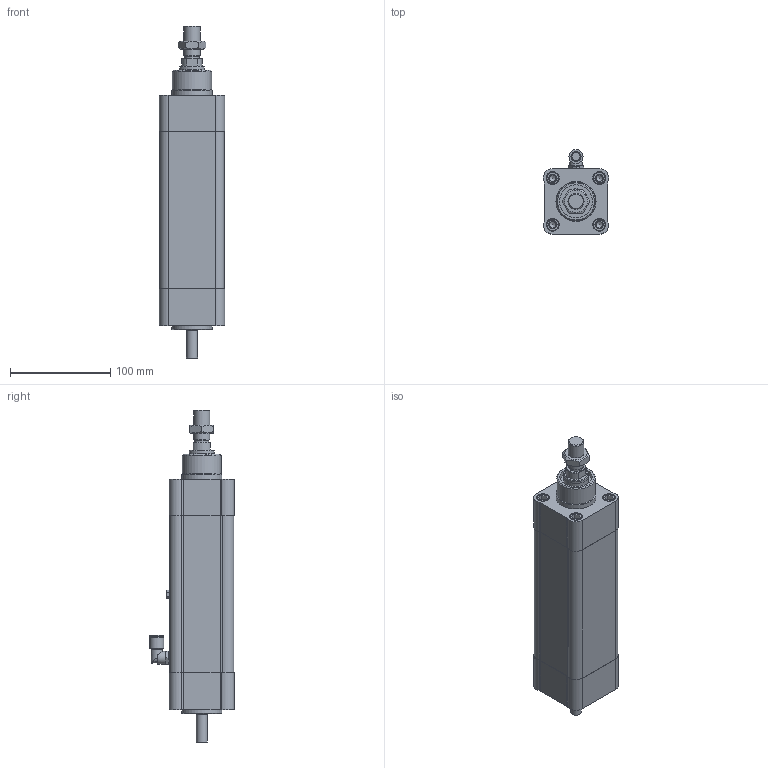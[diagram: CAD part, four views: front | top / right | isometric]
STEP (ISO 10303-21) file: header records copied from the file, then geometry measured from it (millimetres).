
FILE_DESCRIPTION(/* description */ ('STEP AP214'),/* implementation_level */ '2;1');
FILE_NAME(/* name */ 'PNCE 50 BS 2005 50 IP65CR(0)',/* time_stamp */ '2026-06-01T09:19:26+02:00',/* author */ ('License CC BY-ND 4.0'),/* organization */ ('CADENAS'),/* preprocessor_version */ 'ST-DEVELOPER v20',/* originating_system */ 'PARTsolutions',/* authorisation */ ' ');
FILE_SCHEMA (('AUTOMOTIVE_DESIGN {1 0 10303 214 3 1 1}'));
Length unit declared in the file: millimetre
Products named in the file (6): PNCE 50 BS 2005 50 IP65CR(0); PNCE 50_drive cap; PNCE 50 50 IP65CR(0)_cylinder profil; PNCE 50_front cap; PNCE 50 50 IP65CR 0_piston rod; PNCE 50_nut
Assembly tree (5 placements, depth 2):
  PNCE 50 BS 2005 50 IP65CR(0)
    PNCE 50_drive cap
    PNCE 50 50 IP65CR(0)_cylinder profil
    PNCE 50_front cap
    PNCE 50 50 IP65CR 0_piston rod
    PNCE 50_nut
Bounding box: 64.97 x 84.5 x 331 mm (x, y, z)
Volume: 859073.6 mm3; surface area: 184761.5 mm2
Topology: 5 solids, 5 shells, 287 faces, 654 edges, 429 vertices
Faces by surface type: plane 144, cylinder 103, cone 35, torus 5
Full cylindrical faces by diameter (mm): 6.647 x8, 6.7 x4, 8 x9, 8.7 x4, 10 x1, 10.6 x1, 11 x2, 12 x8, 12.5 x2, 13 x8, 14 x2, 14.2 x1, 14.376 x1, 16 x1, 24.8 x1, 25 x2, 31 x1, 33 x1, 39 x1, 40 x2, 49 x1, 50 x3
Entity records: 9296 total; most frequent: CARTESIAN_POINT 1377, DIRECTION 1304, ORIENTED_EDGE 1038, AXIS2_PLACEMENT_3D 524, EDGE_CURVE 519, FACE_BOUND 462, EDGE_LOOP 453, VERTEX_POINT 403
